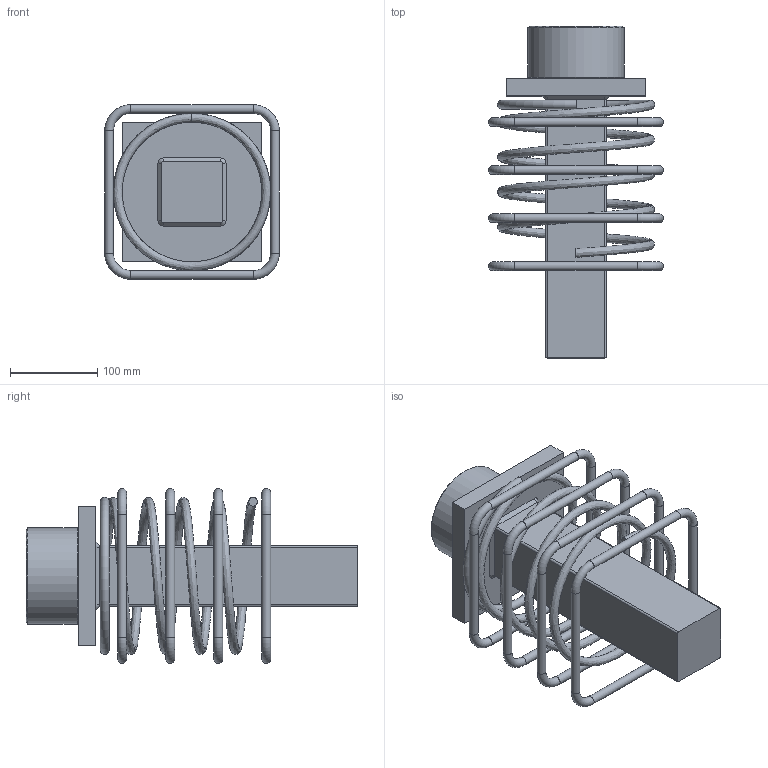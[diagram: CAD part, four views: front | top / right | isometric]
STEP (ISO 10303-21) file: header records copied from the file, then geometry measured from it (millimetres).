
FILE_DESCRIPTION(/* description */ (''),/* implementation_level */ '2;1');
FILE_NAME(/* name */ 'Z:\04 Publications\05 Give-out\BBR\6_3D_Models\BBR VT CONA CMB\02 x 206\BBR VT CONA CMB SP_02 x 206_Anchorage A Assembly.stp',/* time_stamp */ '2017-05-09T11:54:01+02:00',/* author */ ('IP'),/* organization */ (''),/* preprocessor_version */ 'ST-DEVELOPER v16.1',/* originating_system */ 'Autodesk Inventor 2016',/* authorisation */ '');
FILE_SCHEMA (('AUTOMOTIVE_DESIGN { 1 0 10303 214 3 1 1 }'));
Length unit declared in the file: millimetre
Products named in the file (1): BBR VT CONA CMB SP_02 x 206_Anchorage A Assembly
Bounding box: 200 x 380.1 x 200 mm (x, y, z)
Volume: 2987703.1 mm3; surface area: 341865.6 mm2
Topology: 6 solids, 6 shells, 707 faces, 1885 edges, 1243 vertices
Faces by surface type: plane 333, bspline 330, cylinder 21, torus 17, cone 6
Full cylindrical faces by diameter (mm): 10 x16, 110 x1
Entity records: 25938 total; most frequent: CARTESIAN_POINT 9960, ORIENTED_EDGE 3696, DIRECTION 1997, EDGE_CURVE 1848, VERTEX_POINT 1242, LINE 1137, VECTOR 1137, EDGE_LOOP 804
